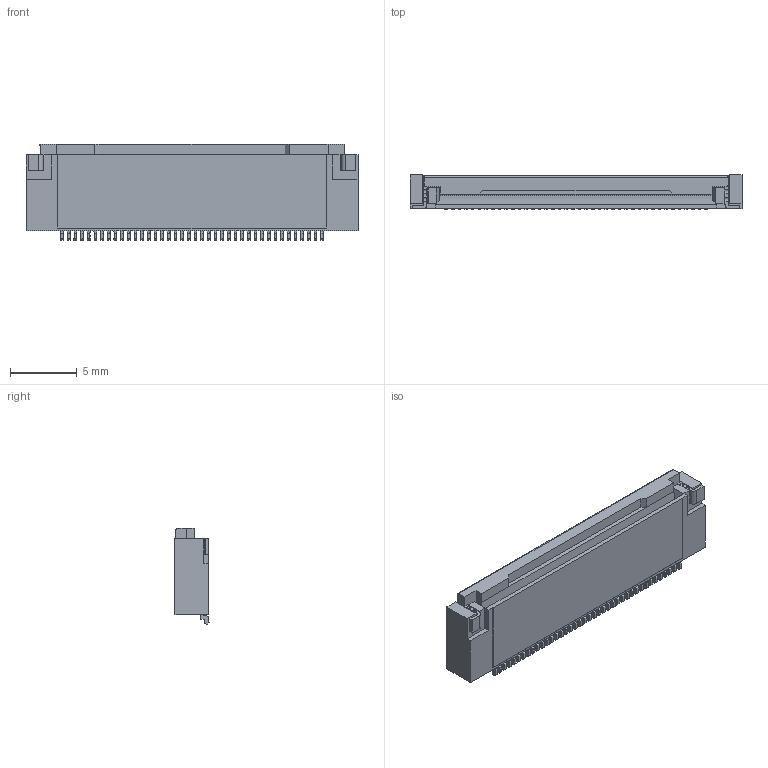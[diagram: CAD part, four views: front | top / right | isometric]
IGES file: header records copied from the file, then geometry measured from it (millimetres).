
Start section: SolidWorks IGES file using analytic representation for surfaces
Global section: file name: 01HC:\3dworks\金子\MINIFLEX5-FF\STEP再作成\ACT　CLOSE\IGES\20647-040E-01 ASS'Y ACT CLOSE IGES R2 ALL.IGS; native system: SolidWorks 2014; preprocessor: SolidWorks 2014; author: ieng2-003; date: 161003.234002; units: millimetre
Bounding box: 24.9 x 2.55 x 7.2 mm (x, y, z)
Surface area: 634.4 mm2 (no closed solid volume)
Topology: 0 solids, 0 shells, 1107 faces, 7422 edges, 7422 vertices
Faces by surface type: bspline 695, revolution 412
